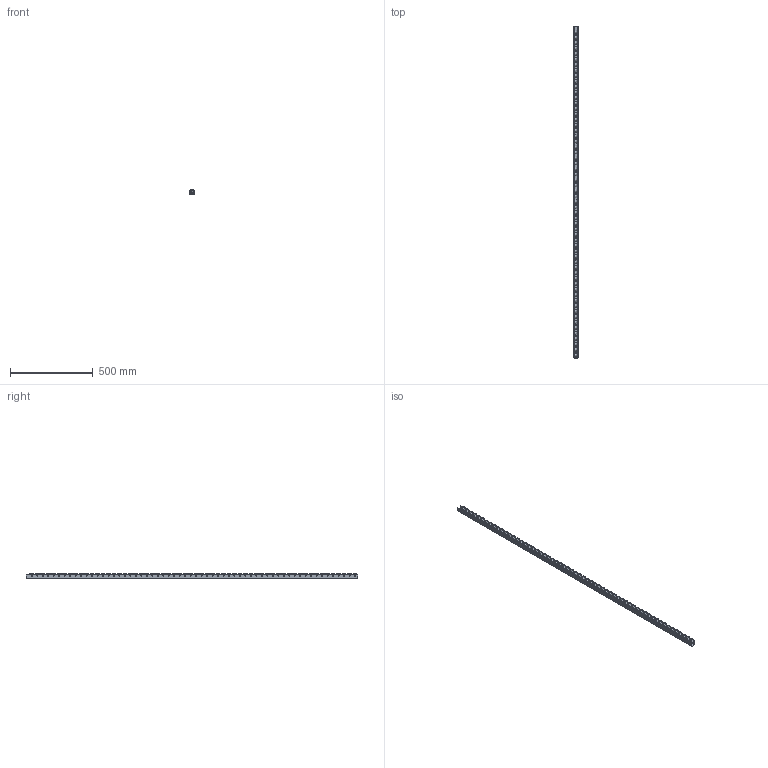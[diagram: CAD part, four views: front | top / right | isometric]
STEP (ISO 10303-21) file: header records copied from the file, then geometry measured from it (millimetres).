
FILE_DESCRIPTION(/* description */ ('Unknown'),/* implementation_level */ '2;1');
FILE_NAME(/* name */ 'Listwa T100H',/* time_stamp */ '2024-12-17T13:13:08+01:00',/* author */ ('Unknown'),/* organization */ ('Unknown'),/* preprocessor_version */ 'ST-DEVELOPER v18.104',/* originating_system */ 'Solid Edge',/* authorisation */ 'Unknown');
FILE_SCHEMA (('AUTOMOTIVE_DESIGN {1 0 10303 214 3 1 1}'));
Length unit declared in the file: millimetre
Products named in the file (4): Listwa T100H; Ceownik T100_33; Nit._0; Rolka T 100H_0
Assembly tree (121 placements, depth 2):
  Listwa T100H
    Ceownik T100_33
    Nit._0  x60
    Rolka T 100H_0  x60
Bounding box: 30 x 2000 x 35 mm (x, y, z)
Volume: 710485.1 mm3; surface area: 559274.6 mm2
Topology: 121 solids, 121 shells, 1245 faces, 2592 edges, 1709 vertices
Faces by surface type: cylinder 575, plane 370, torus 300
Full cylindrical faces by diameter (mm): 2 x60, 4.2 x31, 5 x60, 5.2 x120, 5.5 x60, 6 x120, 30 x120
Entity records: 6963 total; most frequent: DIRECTION 1292, CARTESIAN_POINT 1003, ORIENTED_EDGE 710, EDGE_LOOP 652, FACE_BOUND 652, AXIS2_PLACEMENT_3D 632, EDGE_CURVE 355, VERTEX_POINT 343
